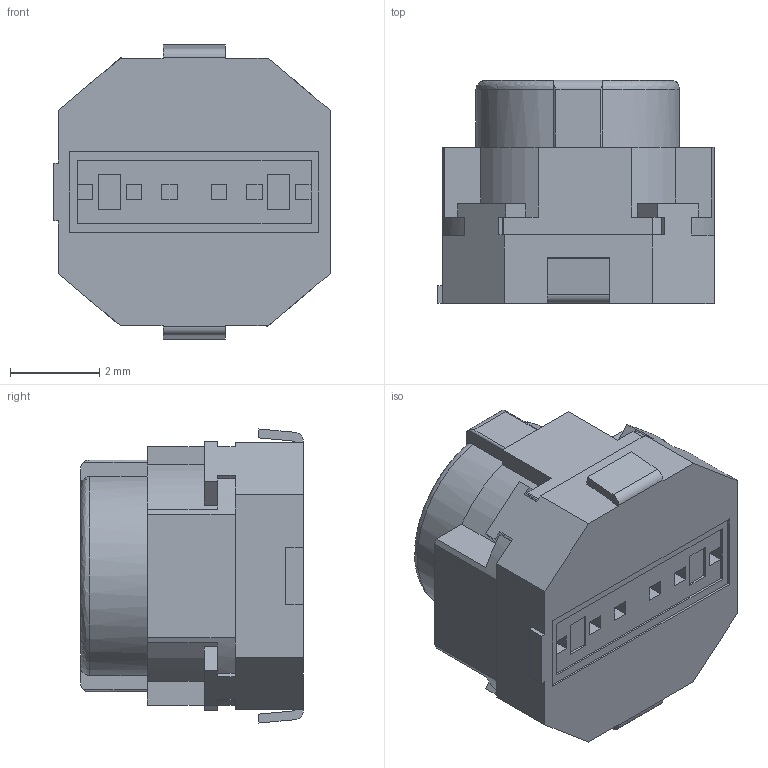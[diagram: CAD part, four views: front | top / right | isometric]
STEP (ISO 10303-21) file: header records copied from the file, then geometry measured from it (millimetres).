
FILE_DESCRIPTION (( 'STEP AP203' ), '1' );
FILE_NAME ('EVPA3B1A.STEP', '2018-02-14T05:28:49', ( '' ), ( '' ), 'SwSTEP 2.0', 'SolidWorks 2016', '' );
FILE_SCHEMA (( 'CONFIG_CONTROL_DESIGN' ));
Length unit declared in the file: millimetre
Products named in the file (1): EVPA3B1A
Bounding box: 6.2 x 5 x 6.6 mm (x, y, z)
Volume: 132 mm3; surface area: 186.4 mm2
Topology: 1 solids, 1 shells, 188 faces, 539 edges, 356 vertices
Faces by surface type: plane 148, cylinder 38, bspline 2
Entity records: 6370 total; most frequent: CARTESIAN_POINT 1525, ORIENTED_EDGE 1078, DIRECTION 840, EDGE_CURVE 539, VECTOR 444, LINE 444, VERTEX_POINT 356, EDGE_LOOP 199
